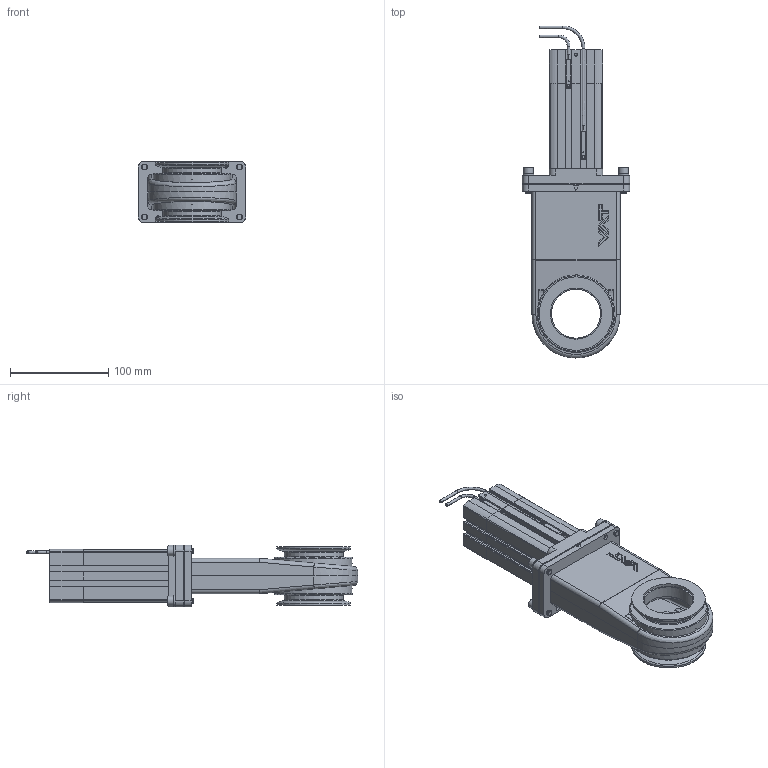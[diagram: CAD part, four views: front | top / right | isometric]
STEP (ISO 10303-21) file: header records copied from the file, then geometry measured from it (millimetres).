
FILE_DESCRIPTION(/* description */ (''),/* implementation_level */ '2;1');
FILE_NAME(/* name */ '1190716700_203.stp',/* time_stamp */ '2013-09-13T08:56:22+02:00',/* author */ (''),/* organization */ (''),/* preprocessor_version */ 'ST-DEVELOPER v11',/* originating_system */ 'SIEMENS PLM Software NX 7.5',/* authorisation */ '');
FILE_SCHEMA (('AP203_CONFIGURATION_CONTROLLED_3D_DESIGN_OF_MECHANICAL_PARTS_AND_ASSEMBLIES_MIM_LF'));
Length unit declared in the file: millimetre
Products named in the file (18): 350432.7_18275ID; 350432.7_18279ID; 350540.2_18277ID; 706345; 706312; 441927; 527408; 351562.6_18273ID; 351562.6_18227ID; 218189; n-6134-408; 351709.1; 350482.2; 706311_NX-ARRAGMNTAntrieb_v2_09x34-DN050, Kabelaustritt hinten; 527460_MODELNX-ARRAGMNTMassbild; 351438.6_NX-ARRAGMNTGrundgehaeuse_kpl_ORIGINAL; 351568.10; 709487
Assembly tree (24 placements, depth 4):
  709487
    350482.2
    351709.1
    n-6134-408  x4
    218189  x4
    351568.10
      351562.6_18227ID
      351562.6_18273ID
      351438.6_NX-ARRAGMNTGrundgehaeuse_kpl_ORIGINAL
        350540.2_18277ID
        350432.7_18279ID
        350432.7_18275ID
    527460_MODELNX-ARRAGMNTMassbild
      527408
    706311_NX-ARRAGMNTAntrieb_v2_09x34-DN050, Kabelaustritt hinten
      441927  x2
      706312
      706345
Bounding box: 109.5 x 338.7 x 63 mm (x, y, z)
Volume: 440184.8 mm3; surface area: 225159.5 mm2
Topology: 28 solids, 29 shells, 1101 faces, 2897 edges, 1918 vertices
Faces by surface type: plane 600, cylinder 349, cone 68, bspline 34, extrusion 23, torus 15, sphere 12
Full cylindrical faces by diameter (mm): 1 x4, 1.1 x1, 1.2 x2, 1.4 x1, 2 x1, 2.5 x4, 2.85 x3, 3 x1, 4.2 x2, 4.96 x4, 5 x14, 5.2 x2, 5.22 x4, 5.774 x1, 6 x8, 6.4 x4, 6.5 x8, 6.8 x1, 7 x1, 8.1 x1, 8.3 x2, 8.5 x2, 8.566 x1, 9.6 x4, 10 x9, 10.4 x1, 11 x5, 11.9 x2, 12.8 x4, 13.7 x1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
Entity records: 39831 total; most frequent: CARTESIAN_POINT 13650, ORIENTED_EDGE 4866, DIRECTION 4611, EDGE_CURVE 2433, AXIS2_PLACEMENT_3D 1744, VERTEX_POINT 1724, EDGE_LOOP 1349, VECTOR 1123
